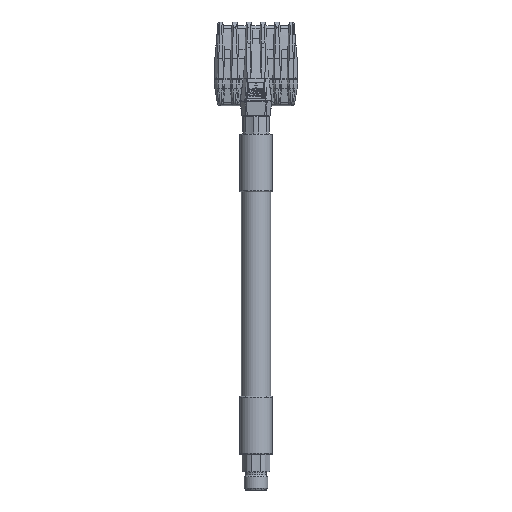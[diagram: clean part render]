
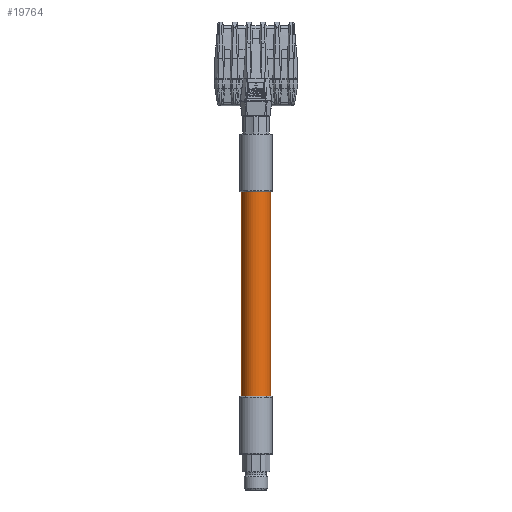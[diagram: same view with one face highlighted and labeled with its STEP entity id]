
A CAD part, front view. The second image highlights one B-rep face of the part: STEP entity #19764.
In plain terms, the highlighted cylindrical face has radius 8.25 mm (diameter 16.5 mm), a partial arc.
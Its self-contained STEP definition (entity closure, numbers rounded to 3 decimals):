
#2934 = ORIENTED_EDGE ( 'NONE', *, *, #7021, .F. ) ;
#4139 = VECTOR ( 'NONE', #36175, 1000. ) ;
#4600 = AXIS2_PLACEMENT_3D ( 'NONE', #25346, #29230, #33099 ) ;
#4601 = EDGE_CURVE ( 'NONE', #22285, #22721, #5345, .T. ) ;
#4944 = VERTEX_POINT ( 'NONE', #24878 ) ;
#5007 = DIRECTION ( 'NONE',  ( 0., 0., 1. ) ) ;
#5345 = LINE ( 'NONE', #17016, #4139 ) ;
#7021 = EDGE_CURVE ( 'NONE', #4944, #22285, #17772, .T. ) ;
#7902 = FACE_OUTER_BOUND ( 'NONE', #14862, .T. ) ;
#13975 = CARTESIAN_POINT ( 'NONE',  ( 0., 0., 32.5 ) ) ;
#14862 = EDGE_LOOP ( 'NONE', ( #15547, #2934, #43179, #28740 ) ) ;
#15547 = ORIENTED_EDGE ( 'NONE', *, *, #4601, .F. ) ;
#15765 = VECTOR ( 'NONE', #21294, 1000. ) ;
#17016 = CARTESIAN_POINT ( 'NONE',  ( 8.25, 0., 147.5 ) ) ;
#17739 = AXIS2_PLACEMENT_3D ( 'NONE', #13975, #40754, #17810 ) ;
#17772 = CIRCLE ( 'NONE', #33173, 8.25 ) ;
#17810 = DIRECTION ( 'NONE',  ( 1., 0., 0. ) ) ;
#18963 = EDGE_CURVE ( 'NONE', #35898, #22721, #20539, .T. ) ;
#19764 = ADVANCED_FACE ( 'NONE', ( #7902 ), #25920, .T. ) ;
#20539 = CIRCLE ( 'NONE', #17739, 8.25 ) ;
#21294 = DIRECTION ( 'NONE',  ( 0., 0., -1. ) ) ;
#22285 = VERTEX_POINT ( 'NONE', #44441 ) ;
#22721 = VERTEX_POINT ( 'NONE', #28405 ) ;
#24878 = CARTESIAN_POINT ( 'NONE',  ( -8.25, 0., 147.5 ) ) ;
#25346 = CARTESIAN_POINT ( 'NONE',  ( 0., 0., 147.5 ) ) ;
#25920 = CYLINDRICAL_SURFACE ( 'NONE', #4600, 8.25 ) ;
#27974 = CARTESIAN_POINT ( 'NONE',  ( 0., 0., 147.5 ) ) ;
#28405 = CARTESIAN_POINT ( 'NONE',  ( 8.25, 0., 32.5 ) ) ;
#28740 = ORIENTED_EDGE ( 'NONE', *, *, #18963, .T. ) ;
#29230 = DIRECTION ( 'NONE',  ( 0., 0., -1. ) ) ;
#31851 = DIRECTION ( 'NONE',  ( 1., 0., 0. ) ) ;
#33099 = DIRECTION ( 'NONE',  ( -1., 0., 0. ) ) ;
#33173 = AXIS2_PLACEMENT_3D ( 'NONE', #27974, #5007, #31851 ) ;
#35898 = VERTEX_POINT ( 'NONE', #42730 ) ;
#36175 = DIRECTION ( 'NONE',  ( 0., 0., -1. ) ) ;
#40381 = CARTESIAN_POINT ( 'NONE',  ( -8.25, 0., 147.5 ) ) ;
#40754 = DIRECTION ( 'NONE',  ( 0., 0., 1. ) ) ;
#42730 = CARTESIAN_POINT ( 'NONE',  ( -8.25, 0., 32.5 ) ) ;
#43179 = ORIENTED_EDGE ( 'NONE', *, *, #47516, .T. ) ;
#44441 = CARTESIAN_POINT ( 'NONE',  ( 8.25, 0., 147.5 ) ) ;
#46325 = LINE ( 'NONE', #40381, #15765 ) ;
#47516 = EDGE_CURVE ( 'NONE', #4944, #35898, #46325, .T. ) ;
